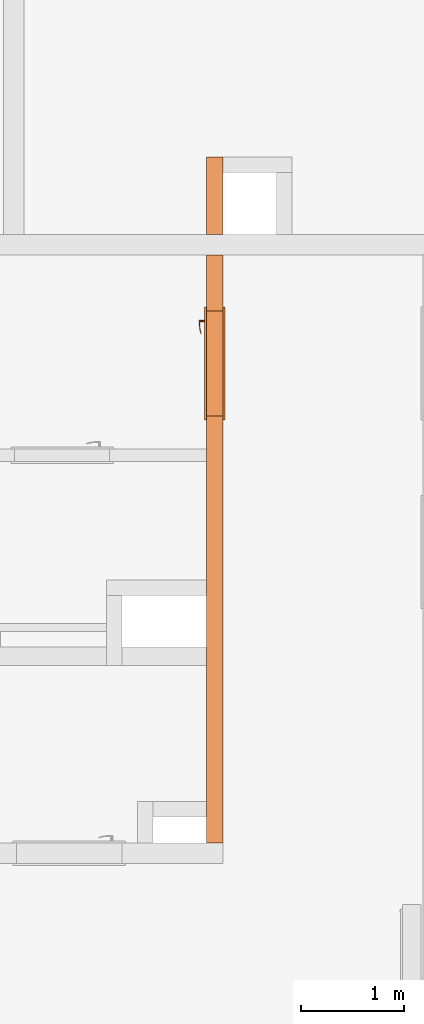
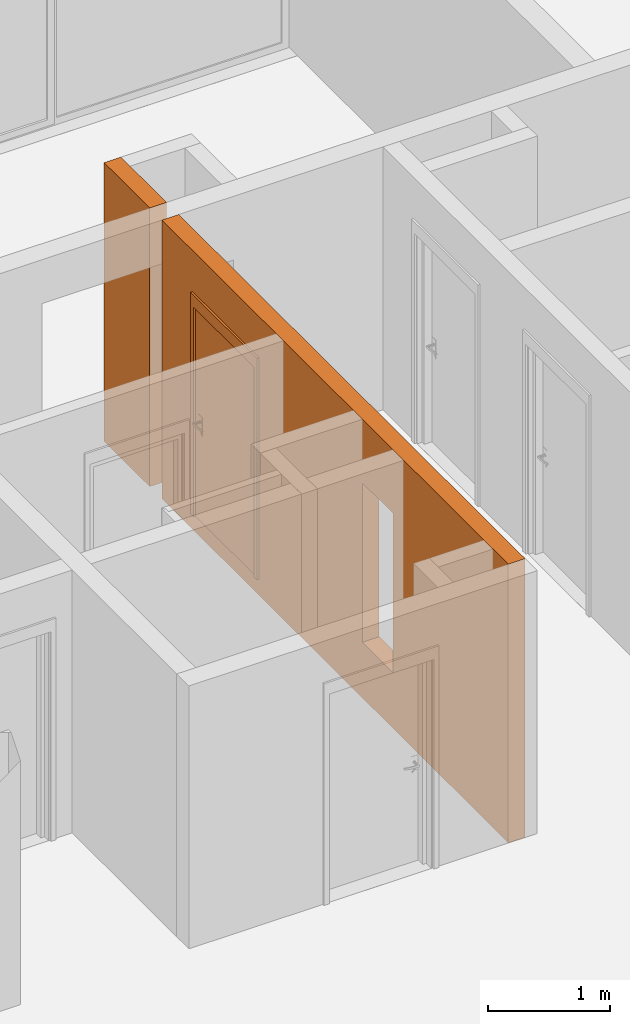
# One storey, part 33 of 64: 2 proxies, 2 openings.
"""IFC2X3 building model written with IfcOpenShell, lengths in millimetres."""

from ifc_helpers import new_model, entity, si_unit, converted_unit, derived_unit, money_unit, direction, frame, origin_with_axes, origin_2d_with_axis, place, context, subcontext, project, spatial, rectangle, extrude, open_shell, faceted_brep, surface_model, source, transform, mapped, material, type_object, element, fill, save


model = new_model("IFC2X3")

# Units and contexts
model_context = context("Model", 3, precision=0.01, world=origin_with_axes(), true_north=direction((0.34421633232, 0.938890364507)))
body_context = subcontext(model_context, "Body", "Model", "MODEL_VIEW")
ifc_project = project(units=[si_unit("LENGTHUNIT", "METRE", prefix="MILLI"), si_unit("AREAUNIT", "SQUARE_METRE"), si_unit("VOLUMEUNIT", "CUBIC_METRE"), converted_unit("PLANEANGLEUNIT", "DEGREE", entity("IfcPlaneAngleMeasure", 0.0174532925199), si_unit("PLANEANGLEUNIT", "RADIAN"), dimensions=[0, 0, 0, 0, 0, 0, 0]), si_unit("SOLIDANGLEUNIT", "STERADIAN"), money_unit("USD"), converted_unit("TIMEUNIT", "Year", entity("IfcTimeMeasure", 31556926.0), si_unit("TIMEUNIT", "SECOND"), dimensions=[0, 0, 1, 0, 0, 0, 0]), si_unit("MASSUNIT", "GRAM", prefix="KILO"), si_unit("THERMODYNAMICTEMPERATUREUNIT", "DEGREE_CELSIUS"), si_unit("LUMINOUSINTENSITYUNIT", "LUMEN"), si_unit("ENERGYUNIT", "JOULE", prefix="MEGA"), derived_unit("THERMALCONDUCTANCEUNIT", [(si_unit("POWERUNIT", "WATT"), 1), (si_unit("LENGTHUNIT", "METRE"), -1), (si_unit("THERMODYNAMICTEMPERATUREUNIT", "KELVIN"), -1)]), derived_unit("SPECIFICHEATCAPACITYUNIT", [(si_unit("ENERGYUNIT", "JOULE"), 1), (si_unit("MASSUNIT", "GRAM", prefix="KILO"), -1), (si_unit("THERMODYNAMICTEMPERATUREUNIT", "KELVIN"), -1)]), derived_unit("MASSDENSITYUNIT", [(si_unit("MASSUNIT", "GRAM", prefix="KILO"), 1), (si_unit("VOLUMEUNIT", "CUBIC_METRE"), -1)])], contexts=[model_context])

# Site, building, storey
site_placement = place(None, origin_with_axes())
site = spatial("IfcSite", under=ifc_project, at=site_placement, Name="USTRONIE MORSKIE", CompositionType="ELEMENT")
building_placement = place(site_placement, origin_with_axes())
building = spatial("IfcBuilding", under=site, at=building_placement, Name="Budynek", CompositionType="ELEMENT")
storey_placement = place(building_placement, frame((0.0, 0.0, 7000.0), z_axis=(0.0, 0.0, 1.0), x_axis=(1.0, 0.0, 0.0)))
storey = spatial("IfcBuildingStorey", under=building, at=storey_placement, Name="PIĘTRO 2", CompositionType="ELEMENT", Elevation=7000.0)

# Proxies, openings
ifc_material = material(Name="Beton konstrukcyjny B25")
building_element_proxy_type_1 = type_object("IfcBuildingElementProxyType", Name="Beton konstrukcyjny B25 160", PredefinedType="NOTDEFINED")
proxy_1_placement = place(storey_placement, frame((416017.920918, 745476.199937, -160.0), z_axis=(0.0, 0.0, 1.0), x_axis=(0.0, -1.0, 0.0)))
proxy_1 = element("IfcBuildingElementProxy", 1, at=proxy_1_placement, inside=storey, type_object=building_element_proxy_type_1, material=ifc_material, Name="SW-01", context=body_context, shape_type="Brep", body=[
    faceted_brep([(6575.00090117, -80.0, 2800.0), (6575.00090117, 80.0, 2800.0), (875.00090117, 80.0, 2800.0), (875.00090117, -80.0, 2800.0), (6575.00090117, -80.0, 0.0), (6575.00090117, 80.0, 0.0), (875.00090117, 80.0, 0.0), (875.00090117, -80.0, 0.0)], [[[0, 1, 2, 3]], [[1, 0, 4, 5]], [[1, 5, 6, 2]], [[7, 3, 2, 6]], [[4, 0, 3, 7]], [[5, 4, 7, 6]]]),
    faceted_brep([(675.00090117, -80.0, 2800.0), (675.00090117, 80.0, 2800.0), (-75.0, 80.0, 2800.0), (-75.0, -80.0, 2800.0), (675.00090117, -80.0, 0.0), (675.00090117, 80.0, 0.0), (-75.0, 80.0, 0.0), (-75.0, -80.0, 0.0)], [[[0, 1, 2, 3]], [[1, 0, 4, 5]], [[1, 5, 6, 2]], [[7, 3, 2, 6]], [[4, 0, 3, 7]], [[5, 4, 7, 6]]]),
])
opening_1_placement = place(proxy_1_placement, frame((1925.00080912, 0.0, 160.0), z_axis=(0.0, 0.0, 1.0), x_axis=(1.0, 0.0, 0.0)))
opening_1 = element("IfcOpeningElement", 2, at=opening_1_placement, cuts=proxy_1, Name="Dw.1", context=body_context, shape_type="SweptSolid", body=[
    extrude(rectangle(XDim=1020.0, YDim=2120.0, at=origin_2d_with_axis()), frame((0.0, 160.0, 1060.0), z_axis=(0.0, 1.0, 0.0), x_axis=(1.0, 0.0, 0.0)), (0.0, 0.0, -1.0), 480.0),
    extrude(rectangle(XDim=1094.0, YDim=2227.0, at=origin_2d_with_axis()), frame((0.0, 80.0, 1113.5), z_axis=(0.0, 1.0, 0.0), x_axis=(1.0, 0.0, 0.0)), (0.0, 0.0, 1.0), 160.0),
    extrude(rectangle(XDim=1094.0, YDim=2227.0, at=origin_2d_with_axis()), frame((0.0, -80.0, 1113.5), z_axis=(0.0, -1.0, 0.0), x_axis=(1.0, 0.0, 0.0)), (0.0, 0.0, 1.0), 160.0),
])
opening_2_placement = place(proxy_1_placement, frame((4425.02046818, 0.0, 560.0), z_axis=(0.0, 0.0, 1.0), x_axis=(1.0, 0.0, 0.0)))
element("IfcOpeningElement", 3, at=opening_2_placement, cuts=proxy_1, Name="R.01", context=body_context, shape_type="SweptSolid", body=[
    extrude(rectangle(XDim=500.001816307, YDim=1600.0, at=origin_2d_with_axis()), frame((0.0, 80.0, 800.0), z_axis=(0.0, -1.0, 0.0), x_axis=(1.0, 0.0, 0.0)), (0.0, 0.0, -1.0), 160.0),
    extrude(rectangle(XDim=500.001816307, YDim=1600.0, at=origin_2d_with_axis()), frame((0.0, 80.0, 800.0), z_axis=(0.0, 1.0, 0.0), x_axis=(1.0, 0.0, 0.0)), (0.0, 0.0, -1.0), 160.0),
])
building_element_proxy_type_2 = type_object("IfcBuildingElementProxyType", Name="Drzwi 23", PredefinedType="NOTDEFINED")
shared_shape = source(origin_with_axes(), body_context, "Body", "SurfaceModel", [
    faceted_brep([(510.0, -115.0, 0.0), (510.0, -160.0, 0.0), (485.0, -160.0, 0.0), (485.0, -115.0, 0.0), (510.0, -115.0, 2120.0), (510.0, -160.0, 2120.0), (485.0, -160.0, 2095.0), (485.0, -115.0, 2095.0)], [[[0, 1, 2, 3]], [[4, 5, 1, 0]], [[1, 5, 6, 2]], [[3, 2, 6, 7]], [[0, 3, 7, 4]], [[7, 6, 5, 4]]]),
    faceted_brep([(-510.0, -115.0, 2120.0), (-510.0, -160.0, 2120.0), (-485.0, -160.0, 2095.0), (-485.0, -115.0, 2095.0), (-510.0, -115.0, 0.0), (-510.0, -160.0, 0.0), (-485.0, -160.0, 0.0), (-485.0, -115.0, 0.0)], [[[0, 1, 2, 3]], [[4, 5, 1, 0]], [[1, 5, 6, 2]], [[3, 2, 6, 7]], [[0, 3, 7, 4]], [[7, 6, 5, 4]]]),
    faceted_brep([(485.0, -115.0, 2095.0), (485.0, -160.0, 2095.0), (-485.0, -160.0, 2095.0), (-485.0, -115.0, 2095.0), (510.0, -115.0, 2120.0), (510.0, -160.0, 2120.0), (-510.0, -160.0, 2120.0), (-510.0, -115.0, 2120.0)], [[[0, 1, 2, 3]], [[4, 5, 1, 0]], [[1, 5, 6, 2]], [[3, 2, 6, 7]], [[0, 3, 7, 4]], [[7, 6, 5, 4]]]),
    faceted_brep([(547.0, -179.0, 0.0), (497.0, -179.0, 0.0), (497.0, -160.0, 0.0), (547.0, -160.0, 0.0), (547.0, -179.0, 2227.0), (497.0, -179.0, 2107.0), (497.0, -160.0, 2107.0), (547.0, -160.0, 2227.0)], [[[0, 1, 2, 3]], [[0, 4, 5, 1]], [[1, 5, 6, 2]], [[3, 2, 6, 7]], [[4, 0, 3, 7]], [[5, 4, 7, 6]]]),
    faceted_brep([(-547.0, -179.0, 2227.0), (-497.0, -179.0, 2107.0), (-497.0, -160.0, 2107.0), (-547.0, -160.0, 2227.0), (-547.0, -179.0, 0.0), (-497.0, -179.0, 0.0), (-497.0, -160.0, 0.0), (-547.0, -160.0, 0.0)], [[[0, 1, 2, 3]], [[0, 4, 5, 1]], [[1, 5, 6, 2]], [[3, 2, 6, 7]], [[4, 0, 3, 7]], [[5, 4, 7, 6]]]),
    faceted_brep([(547.0, -179.0, 2227.0), (497.0, -179.0, 2107.0), (497.0, -160.0, 2107.0), (547.0, -160.0, 2227.0), (-547.0, -179.0, 2227.0), (-497.0, -179.0, 2107.0), (-497.0, -160.0, 2107.0), (-547.0, -160.0, 2227.0)], [[[0, 1, 2, 3]], [[0, 4, 5, 1]], [[1, 5, 6, 2]], [[3, 2, 6, 7]], [[4, 0, 3, 7]], [[5, 4, 7, 6]]]),
    faceted_brep([(547.0, 19.0, 0.0), (547.0, 0.0, 0.0), (497.0, 0.0, 0.0), (497.0, 19.0, 0.0), (547.0, 19.0, 2227.0), (547.0, 0.0, 2227.0), (497.0, 0.0, 2107.0), (497.0, 19.0, 2107.0)], [[[0, 1, 2, 3]], [[4, 5, 1, 0]], [[1, 5, 6, 2]], [[3, 2, 6, 7]], [[0, 3, 7, 4]], [[7, 6, 5, 4]]]),
    faceted_brep([(-547.0, 19.0, 2227.0), (-547.0, 0.0, 2227.0), (-497.0, 0.0, 2107.0), (-497.0, 19.0, 2107.0), (-547.0, 19.0, 0.0), (-547.0, 0.0, 0.0), (-497.0, 0.0, 0.0), (-497.0, 19.0, 0.0)], [[[0, 1, 2, 3]], [[4, 5, 1, 0]], [[1, 5, 6, 2]], [[3, 2, 6, 7]], [[0, 3, 7, 4]], [[7, 6, 5, 4]]]),
    faceted_brep([(547.0, 19.0, 2227.0), (547.0, 0.0, 2227.0), (497.0, 0.0, 2107.0), (497.0, 19.0, 2107.0), (-547.0, 19.0, 2227.0), (-547.0, 0.0, 2227.0), (-497.0, 0.0, 2107.0), (-497.0, 19.0, 2107.0)], [[[0, 1, 2, 3]], [[4, 5, 1, 0]], [[1, 5, 6, 2]], [[3, 2, 6, 7]], [[0, 3, 7, 4]], [[7, 6, 5, 4]]]),
    faceted_brep([(450.0, -40.0, 0.0), (450.0, -115.0, 0.0), (450.0, -115.0, 2050.0), (450.0, -40.0, 2050.0), (462.0, -40.0, 0.0), (462.0, 0.0, 0.0), (510.0, 0.0, 0.0), (510.0, -115.0, 0.0), (510.0, -115.0, 2050.0), (462.0, -40.0, 2050.0), (510.0, 0.0, 2050.0), (462.0, 0.0, 2050.0)], [[[0, 1, 2, 3]], [[4, 5, 6, 7, 1, 0]], [[1, 7, 8, 2]], [[9, 3, 2, 8, 10, 11]], [[9, 4, 0, 3]], [[11, 5, 4, 9]], [[11, 10, 6, 5]], [[6, 10, 8, 7]]]),
    faceted_brep([(-462.0, -40.0, 2050.0), (-462.0, 0.0, 2050.0), (-510.0, 0.0, 2050.0), (-510.0, -115.0, 2050.0), (-450.0, -115.0, 2050.0), (-450.0, -40.0, 2050.0), (-462.0, -40.0, 0.0), (-462.0, 0.0, 0.0), (-510.0, 0.0, 0.0), (-510.0, -115.0, 0.0), (-450.0, -115.0, 0.0), (-450.0, -40.0, 0.0)], [[[0, 1, 2, 3, 4, 5]], [[0, 6, 7, 1]], [[7, 8, 2, 1]], [[2, 8, 9, 3]], [[3, 9, 10, 4]], [[5, 4, 10, 11]], [[5, 11, 6, 0]], [[6, 11, 10, 9, 8, 7]]]),
    faceted_brep([(462.0, 0.0, 2062.0), (-462.0, 0.0, 2062.0), (-462.0, 0.0, 2050.0), (-510.0, 0.0, 2050.0), (-510.0, 0.0, 2120.0), (510.0, 0.0, 2120.0), (510.0, 0.0, 2050.0), (462.0, 0.0, 2050.0), (462.0, -40.0, 2062.0), (-462.0, -40.0, 2062.0), (-462.0, -40.0, 2050.0), (-450.0, -40.0, 2050.0), (-450.0, -115.0, 2050.0), (-510.0, -115.0, 2050.0), (-510.0, -115.0, 2120.0), (510.0, -115.0, 2120.0), (510.0, -115.0, 2050.0), (462.0, -40.0, 2050.0), (450.0, -115.0, 2050.0), (450.0, -40.0, 2050.0)], [[[0, 1, 2, 3, 4, 5, 6, 7]], [[0, 8, 9, 1]], [[1, 9, 10, 2]], [[10, 11, 12, 13, 3, 2]], [[4, 3, 13, 14]], [[5, 4, 14, 15]], [[6, 5, 15, 16]], [[17, 7, 6, 16, 18, 19]], [[7, 17, 8, 0]], [[10, 9, 8, 17, 19, 11]], [[19, 18, 12, 11]], [[12, 18, 16, 15, 14, 13]]]),
    faceted_brep([(440.5, -40.0, 1060.0), (383.5, -40.0, 1060.0), (383.5, -43.0, 1060.0), (440.5, -43.0, 1060.0), (440.5, -40.0, 870.0), (383.5, -40.0, 870.0), (383.5, -43.0, 870.0), (440.5, -43.0, 870.0)], [[[0, 1, 2, 3]], [[0, 4, 5, 1]], [[1, 5, 6, 2]], [[3, 2, 6, 7]], [[4, 0, 3, 7]], [[5, 4, 7, 6]]]),
    faceted_brep([(412.0, -104.0, 990.0), (417.0, -104.0, 991.339745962), (417.0, -111.0, 991.339745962), (412.0, -111.0, 990.0), (387.0, -104.0, 990.0), (387.0, -104.0, 1010.0), (412.0, -104.0, 1010.0), (417.0, -104.0, 1008.66025404), (420.660254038, -104.0, 1005.0), (422.0, -104.0, 1000.0), (420.660254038, -104.0, 995.0), (420.660254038, -111.0, 995.0), (422.0, -111.0, 1000.0), (420.660254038, -111.0, 1005.0), (417.0, -111.0, 1008.66025404), (412.0, -111.0, 1010.0), (387.0, -111.0, 1010.0), (387.0, -111.0, 990.0)], [[[0, 1, 2, 3]], [[0, 4, 5, 6, 7, 8, 9, 10, 1]], [[1, 10, 11, 2]], [[3, 2, 11, 12, 13, 14, 15, 16, 17]], [[4, 0, 3, 17]], [[5, 4, 17, 16]], [[6, 5, 16, 15]], [[7, 6, 15, 14]], [[8, 7, 14, 13]], [[9, 8, 13, 12]], [[10, 9, 12, 11]]]),
    surface_model("IfcShellBasedSurfaceModel", [(387.0, -104.0, 1010.0), (373.901717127, -104.0, 1009.60730092), (373.596090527, -111.0, 1009.60730092), (387.0, -104.0, 990.0), (373.901717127, -104.0, 990.392699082), (346.890283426, -108.663544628, 1008.82190275), (387.0, -111.0, 1010.0), (387.0, -111.0, 990.0), (347.804837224, -101.716818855, 991.178097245), (347.804837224, -101.716818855, 1008.82190275), (346.890283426, -108.663544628, 991.178097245), (373.596090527, -111.0, 990.392699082), (322.006256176, -97.1678329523, 991.963495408), (322.006256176, -97.1678329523, 1008.03650459), (320.489735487, -104.008415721, 1008.03650459), (320.489735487, -104.008415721, 991.963495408), (296.702316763, -90.3876628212, 992.748893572), (296.702316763, -90.3876628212, 1007.25110643), (294.59537082, -97.0700416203, 1007.25110643), (294.59537082, -97.0700416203, 992.748893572), (288.829442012, -87.5221707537, 993.0), (288.829442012, -87.5221707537, 1007.0), (286.538795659, -94.1376880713, 1007.0), (286.538795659, -94.1376880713, 993.0)], [open_shell([[[0, 1, 2]], [[0, 3, 4, 1]], [[1, 5, 2]], [[0, 2, 6]], [[4, 3, 7]], [[1, 4, 8, 9]], [[1, 9, 5]], [[2, 5, 10, 11]], [[6, 2, 11, 7]], [[4, 7, 11]], [[8, 4, 11]], [[9, 8, 12, 13]], [[9, 14, 5]], [[5, 14, 15, 10]], [[8, 11, 10]], [[12, 8, 10]], [[13, 12, 16, 17]], [[9, 13, 14]], [[14, 18, 19, 15]], [[12, 10, 15]], [[16, 12, 15]], [[17, 16, 20, 21]], [[13, 17, 18]], [[13, 18, 14]], [[18, 22, 23, 19]], [[16, 15, 19]], [[20, 16, 19]], [[21, 20, 23, 22]], [[17, 21, 22]], [[17, 22, 18]], [[20, 19, 23]]])]),
    faceted_brep([(401.607695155, -53.0, 994.0), (400.0, -53.0, 1000.0), (399.0, -43.0, 1000.0), (400.741669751, -43.0, 993.5), (406.0, -53.0, 989.607695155), (412.0, -53.0, 988.0), (418.0, -53.0, 989.607695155), (422.392304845, -53.0, 994.0), (424.0, -53.0, 1000.0), (422.392304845, -53.0, 1006.0), (418.0, -53.0, 1010.39230485), (412.0, -53.0, 1012.0), (406.0, -53.0, 1010.39230485), (401.607695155, -53.0, 1006.0), (400.741669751, -43.0, 1006.5), (405.5, -43.0, 1011.25833025), (412.0, -43.0, 1013.0), (418.5, -43.0, 1011.25833025), (423.258330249, -43.0, 1006.5), (425.0, -43.0, 1000.0), (423.258330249, -43.0, 993.5), (418.5, -43.0, 988.741669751), (412.0, -43.0, 987.0), (405.5, -43.0, 988.741669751)], [[[0, 1, 2, 3]], [[1, 0, 4, 5, 6, 7, 8, 9, 10, 11, 12, 13]], [[1, 13, 14, 2]], [[2, 14, 15, 16, 17, 18, 19, 20, 21, 22, 23, 3]], [[4, 0, 3, 23]], [[5, 4, 23, 22]], [[6, 5, 22, 21]], [[7, 6, 21, 20]], [[8, 7, 20, 19]], [[9, 8, 19, 18]], [[10, 9, 18, 17]], [[11, 10, 17, 16]], [[12, 11, 16, 15]], [[13, 12, 15, 14]]]),
    faceted_brep([(394.679491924, -47.0, 895.0), (392.0, -47.0, 905.0), (390.0, -43.0, 905.0), (392.947441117, -43.0, 894.0), (402.0, -47.0, 887.679491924), (412.0, -47.0, 885.0), (422.0, -47.0, 887.679491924), (429.320508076, -47.0, 895.0), (432.0, -47.0, 905.0), (429.320508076, -47.0, 915.0), (422.0, -47.0, 922.320508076), (412.0, -47.0, 925.0), (402.0, -47.0, 922.320508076), (394.679491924, -47.0, 915.0), (392.947441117, -43.0, 916.0), (401.0, -43.0, 924.052558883), (412.0, -43.0, 927.0), (423.0, -43.0, 924.052558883), (431.052558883, -43.0, 916.0), (434.0, -43.0, 905.0), (431.052558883, -43.0, 894.0), (423.0, -43.0, 885.947441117), (412.0, -43.0, 883.0), (401.0, -43.0, 885.947441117)], [[[0, 1, 2, 3]], [[1, 0, 4, 5, 6, 7, 8, 9, 10, 11, 12, 13]], [[1, 13, 14, 2]], [[2, 14, 15, 16, 17, 18, 19, 20, 21, 22, 23, 3]], [[4, 0, 3, 23]], [[5, 4, 23, 22]], [[6, 5, 22, 21]], [[7, 6, 21, 20]], [[8, 7, 20, 19]], [[9, 8, 19, 18]], [[10, 9, 18, 17]], [[11, 10, 17, 16]], [[12, 11, 16, 15]], [[13, 12, 15, 14]]]),
    faceted_brep([(407.050252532, -49.0, 909.050252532), (405.0, -49.0, 914.0), (404.0, -47.0, 914.0), (406.343145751, -47.0, 908.343145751), (412.0, -49.0, 907.0), (416.949747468, -49.0, 909.050252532), (419.0, -49.0, 914.0), (416.949747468, -49.0, 918.949747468), (412.0, -49.0, 921.0), (407.050252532, -49.0, 918.949747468), (406.343145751, -47.0, 919.656854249), (412.0, -47.0, 922.0), (417.656854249, -47.0, 919.656854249), (420.0, -47.0, 914.0), (417.656854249, -47.0, 908.343145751), (412.0, -47.0, 906.0)], [[[0, 1, 2, 3]], [[1, 0, 4, 5, 6, 7, 8, 9]], [[1, 9, 10, 2]], [[2, 10, 11, 12, 13, 14, 15, 3]], [[4, 0, 3, 15]], [[5, 4, 15, 14]], [[6, 5, 14, 13]], [[7, 6, 13, 12]], [[8, 7, 12, 11]], [[9, 8, 11, 10]]]),
    faceted_brep([(412.0, -53.0, 1010.0), (407.0, -53.0, 1008.66025404), (407.0, -104.0, 1008.66025404), (412.0, -104.0, 1010.0), (417.0, -53.0, 1008.66025404), (420.660254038, -53.0, 1005.0), (422.0, -53.0, 1000.0), (420.660254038, -53.0, 995.0), (417.0, -53.0, 991.339745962), (412.0, -53.0, 990.0), (407.0, -53.0, 991.339745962), (403.339745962, -53.0, 995.0), (402.0, -53.0, 1000.0), (403.339745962, -53.0, 1005.0), (403.339745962, -104.0, 1005.0), (402.0, -104.0, 1000.0), (403.339745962, -104.0, 995.0), (407.0, -104.0, 991.339745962), (412.0, -104.0, 990.0), (417.0, -104.0, 991.339745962), (420.660254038, -104.0, 995.0), (422.0, -104.0, 1000.0), (420.660254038, -104.0, 1005.0), (417.0, -104.0, 1008.66025404)], [[[0, 1, 2, 3]], [[0, 4, 5, 6, 7, 8, 9, 10, 11, 12, 13, 1]], [[1, 13, 14, 2]], [[3, 2, 14, 15, 16, 17, 18, 19, 20, 21, 22, 23]], [[4, 0, 3, 23]], [[5, 4, 23, 22]], [[6, 5, 22, 21]], [[7, 6, 21, 20]], [[8, 7, 20, 19]], [[9, 8, 19, 18]], [[10, 9, 18, 17]], [[11, 10, 17, 16]], [[12, 11, 16, 15]], [[13, 12, 15, 14]]]),
    faceted_brep([(440.5, 0.0, 1060.0), (440.5, 3.0, 1060.0), (383.5, 3.0, 1060.0), (383.5, 0.0, 1060.0), (440.5, 0.0, 870.0), (440.5, 3.0, 870.0), (383.5, 3.0, 870.0), (383.5, 0.0, 870.0)], [[[0, 1, 2, 3]], [[4, 5, 1, 0]], [[1, 5, 6, 2]], [[3, 2, 6, 7]], [[0, 3, 7, 4]], [[7, 6, 5, 4]]]),
    faceted_brep([(412.0, 64.0, 990.0), (412.0, 71.0, 990.0), (417.0, 71.0, 991.339745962), (417.0, 64.0, 991.339745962), (387.0, 64.0, 990.0), (387.0, 71.0, 990.0), (387.0, 71.0, 1010.0), (412.0, 71.0, 1010.0), (417.0, 71.0, 1008.66025404), (420.660254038, 71.0, 1005.0), (422.0, 71.0, 1000.0), (420.660254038, 71.0, 995.0), (420.660254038, 64.0, 995.0), (422.0, 64.0, 1000.0), (420.660254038, 64.0, 1005.0), (417.0, 64.0, 1008.66025404), (412.0, 64.0, 1010.0), (387.0, 64.0, 1010.0)], [[[0, 1, 2, 3]], [[4, 5, 1, 0]], [[1, 5, 6, 7, 8, 9, 10, 11, 2]], [[3, 2, 11, 12]], [[0, 3, 12, 13, 14, 15, 16, 17, 4]], [[17, 6, 5, 4]], [[16, 7, 6, 17]], [[15, 8, 7, 16]], [[14, 9, 8, 15]], [[13, 10, 9, 14]], [[12, 11, 10, 13]]]),
    surface_model("IfcShellBasedSurfaceModel", [(387.0, 64.0, 1010.0), (373.596090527, 71.0, 1009.60730092), (373.901717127, 64.0, 1009.60730092), (387.0, 71.0, 1010.0), (346.890283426, 68.6635446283, 1008.82190275), (373.901717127, 64.0, 990.392699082), (387.0, 64.0, 990.0), (387.0, 71.0, 990.0), (373.596090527, 71.0, 990.392699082), (346.890283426, 68.6635446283, 991.178097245), (347.804837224, 61.716818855, 1008.82190275), (347.804837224, 61.716818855, 991.178097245), (320.489735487, 64.0084157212, 991.963495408), (320.489735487, 64.0084157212, 1008.03650459), (322.006256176, 57.1678329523, 1008.03650459), (322.006256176, 57.1678329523, 991.963495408), (294.59537082, 57.0700416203, 992.748893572), (294.59537082, 57.0700416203, 1007.25110643), (296.702316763, 50.3876628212, 1007.25110643), (296.702316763, 50.3876628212, 992.748893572), (286.538795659, 54.1376880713, 993.0), (286.538795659, 54.1376880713, 1007.0), (288.829442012, 47.5221707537, 1007.0), (288.829442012, 47.5221707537, 993.0)], [open_shell([[[0, 1, 2]], [[0, 3, 1]], [[2, 1, 4]], [[0, 2, 5, 6]], [[3, 7, 8, 1]], [[1, 8, 9, 4]], [[2, 4, 10]], [[2, 10, 11, 5]], [[5, 7, 6]], [[5, 8, 7]], [[11, 9, 8]], [[4, 9, 12, 13]], [[10, 4, 13]], [[10, 14, 15, 11]], [[11, 8, 5]], [[15, 9, 11]], [[15, 12, 9]], [[13, 12, 16, 17]], [[10, 13, 14]], [[14, 18, 19, 15]], [[19, 12, 15]], [[19, 16, 12]], [[17, 16, 20, 21]], [[14, 13, 17]], [[14, 17, 18]], [[18, 22, 23, 19]], [[23, 16, 19]], [[23, 20, 16]], [[22, 21, 20, 23]], [[18, 17, 21]], [[18, 21, 22]]])]),
    faceted_brep([(401.607695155, 13.0, 994.0), (400.741669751, 3.0, 993.5), (399.0, 3.0, 1000.0), (400.0, 13.0, 1000.0), (406.0, 13.0, 989.607695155), (405.5, 3.0, 988.741669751), (412.0, 3.0, 987.0), (418.5, 3.0, 988.741669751), (423.258330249, 3.0, 993.5), (425.0, 3.0, 1000.0), (423.258330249, 3.0, 1006.5), (418.5, 3.0, 1011.25833025), (412.0, 3.0, 1013.0), (405.5, 3.0, 1011.25833025), (400.741669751, 3.0, 1006.5), (401.607695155, 13.0, 1006.0), (406.0, 13.0, 1010.39230485), (412.0, 13.0, 1012.0), (418.0, 13.0, 1010.39230485), (422.392304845, 13.0, 1006.0), (424.0, 13.0, 1000.0), (422.392304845, 13.0, 994.0), (418.0, 13.0, 989.607695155), (412.0, 13.0, 988.0)], [[[0, 1, 2, 3]], [[4, 5, 1, 0]], [[2, 1, 5, 6, 7, 8, 9, 10, 11, 12, 13, 14]], [[3, 2, 14, 15]], [[3, 15, 16, 17, 18, 19, 20, 21, 22, 23, 4, 0]], [[23, 6, 5, 4]], [[22, 7, 6, 23]], [[21, 8, 7, 22]], [[20, 9, 8, 21]], [[19, 10, 9, 20]], [[18, 11, 10, 19]], [[17, 12, 11, 18]], [[16, 13, 12, 17]], [[15, 14, 13, 16]]]),
    faceted_brep([(394.679491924, 7.0, 895.0), (392.947441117, 3.0, 894.0), (390.0, 3.0, 905.0), (392.0, 7.0, 905.0), (402.0, 7.0, 887.679491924), (401.0, 3.0, 885.947441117), (412.0, 3.0, 883.0), (423.0, 3.0, 885.947441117), (431.052558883, 3.0, 894.0), (434.0, 3.0, 905.0), (431.052558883, 3.0, 916.0), (423.0, 3.0, 924.052558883), (412.0, 3.0, 927.0), (401.0, 3.0, 924.052558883), (392.947441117, 3.0, 916.0), (394.679491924, 7.0, 915.0), (402.0, 7.0, 922.320508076), (412.0, 7.0, 925.0), (422.0, 7.0, 922.320508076), (429.320508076, 7.0, 915.0), (432.0, 7.0, 905.0), (429.320508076, 7.0, 895.0), (422.0, 7.0, 887.679491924), (412.0, 7.0, 885.0)], [[[0, 1, 2, 3]], [[4, 5, 1, 0]], [[2, 1, 5, 6, 7, 8, 9, 10, 11, 12, 13, 14]], [[3, 2, 14, 15]], [[3, 15, 16, 17, 18, 19, 20, 21, 22, 23, 4, 0]], [[23, 6, 5, 4]], [[22, 7, 6, 23]], [[21, 8, 7, 22]], [[20, 9, 8, 21]], [[19, 10, 9, 20]], [[18, 11, 10, 19]], [[17, 12, 11, 18]], [[16, 13, 12, 17]], [[15, 14, 13, 16]]]),
    faceted_brep([(407.050252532, 9.0, 909.050252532), (406.343145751, 7.0, 908.343145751), (404.0, 7.0, 914.0), (405.0, 9.0, 914.0), (412.0, 9.0, 907.0), (412.0, 7.0, 906.0), (417.656854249, 7.0, 908.343145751), (420.0, 7.0, 914.0), (417.656854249, 7.0, 919.656854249), (412.0, 7.0, 922.0), (406.343145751, 7.0, 919.656854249), (407.050252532, 9.0, 918.949747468), (412.0, 9.0, 921.0), (416.949747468, 9.0, 918.949747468), (419.0, 9.0, 914.0), (416.949747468, 9.0, 909.050252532)], [[[0, 1, 2, 3]], [[4, 5, 1, 0]], [[2, 1, 5, 6, 7, 8, 9, 10]], [[3, 2, 10, 11]], [[3, 11, 12, 13, 14, 15, 4, 0]], [[15, 6, 5, 4]], [[14, 7, 6, 15]], [[13, 8, 7, 14]], [[12, 9, 8, 13]], [[11, 10, 9, 12]]]),
    faceted_brep([(412.0, 13.0, 1010.0), (412.0, 64.0, 1010.0), (407.0, 64.0, 1008.66025404), (407.0, 13.0, 1008.66025404), (417.0, 13.0, 1008.66025404), (417.0, 64.0, 1008.66025404), (420.660254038, 64.0, 1005.0), (422.0, 64.0, 1000.0), (420.660254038, 64.0, 995.0), (417.0, 64.0, 991.339745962), (412.0, 64.0, 990.0), (407.0, 64.0, 991.339745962), (403.339745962, 64.0, 995.0), (402.0, 64.0, 1000.0), (403.339745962, 64.0, 1005.0), (403.339745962, 13.0, 1005.0), (402.0, 13.0, 1000.0), (403.339745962, 13.0, 995.0), (407.0, 13.0, 991.339745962), (412.0, 13.0, 990.0), (417.0, 13.0, 991.339745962), (420.660254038, 13.0, 995.0), (422.0, 13.0, 1000.0), (420.660254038, 13.0, 1005.0)], [[[0, 1, 2, 3]], [[4, 5, 1, 0]], [[1, 5, 6, 7, 8, 9, 10, 11, 12, 13, 14, 2]], [[3, 2, 14, 15]], [[0, 3, 15, 16, 17, 18, 19, 20, 21, 22, 23, 4]], [[23, 6, 5, 4]], [[22, 7, 6, 23]], [[21, 8, 7, 22]], [[20, 9, 8, 21]], [[19, 10, 9, 20]], [[18, 11, 10, 19]], [[17, 12, 11, 18]], [[16, 13, 12, 17]], [[15, 14, 13, 16]]]),
    faceted_brep([(-462.0, 0.0, 0.0), (462.0, 0.0, 0.0), (462.0, -40.0, 0.0), (-462.0, -40.0, 0.0), (-462.0, 0.0, 2062.0), (462.0, 0.0, 2062.0), (462.0, -40.0, 2062.0), (-462.0, -40.0, 2062.0)], [[[0, 1, 2, 3]], [[0, 4, 5, 1]], [[1, 5, 6, 2]], [[3, 2, 6, 7]], [[4, 0, 3, 7]], [[5, 4, 7, 6]]]),
])
proxy_2_placement = place(opening_1_placement, frame((450.0, 0.0, 0.0), z_axis=(0.0, 0.0, 1.0), x_axis=(-1.0, 0.0, 0.0)))
proxy_2 = element("IfcBuildingElementProxy", 4, at=proxy_2_placement, inside=storey, type_object=building_element_proxy_type_2, Name="Dw.1", context=body_context, shape_type="MappedRepresentation", body=[
    mapped(shared_shape, transform((450.0, 80.0, 0.0))),
])
fill(opening_1, proxy_2)

save(model, "model.ifc")
